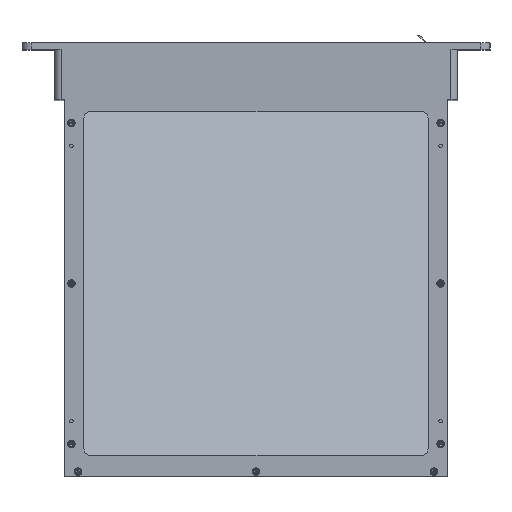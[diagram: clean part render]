
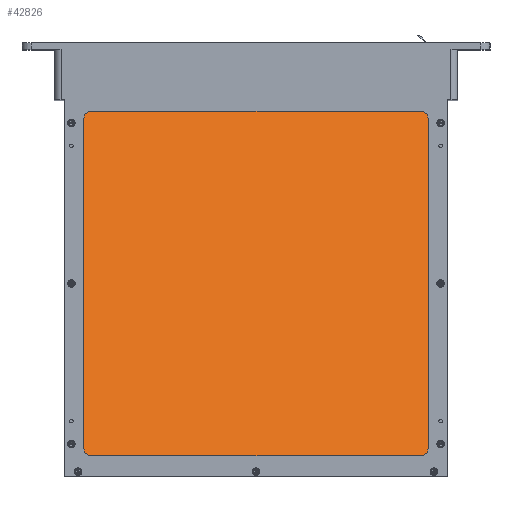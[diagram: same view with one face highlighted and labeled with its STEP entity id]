
A CAD part, top view. The second image highlights one B-rep face of the part: STEP entity #42826.
In plain terms, the highlighted planar face has unit normal (0, 0.707, 0.707).
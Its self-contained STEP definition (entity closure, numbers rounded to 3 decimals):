
#849 = ORIENTED_EDGE ( 'NONE', *, *, #55717, .T. ) ;
#1641 = CARTESIAN_POINT ( 'NONE',  ( -78.5, -179.786, 82.114 ) ) ;
#1803 = ORIENTED_EDGE ( 'NONE', *, *, #53153, .F. ) ;
#2137 = AXIS2_PLACEMENT_3D ( 'NONE', #57007, #28100, #61825 ) ;
#3499 = EDGE_CURVE ( 'NONE', #39111, #40626, #30976, .T. ) ;
#3856 = CARTESIAN_POINT ( 'NONE',  ( 80.5, -23.515, -74.156 ) ) ;
#4206 = DIRECTION ( 'NONE',  ( 0., -0.707, -0.707 ) ) ;
#6580 = CARTESIAN_POINT ( 'NONE',  ( 80.5, -22.101, -75.571 ) ) ;
#6692 = VECTOR ( 'NONE', #18052, 1000. ) ;
#6786 = VECTOR ( 'NONE', #49911, 1000. ) ;
#7657 = ORIENTED_EDGE ( 'NONE', *, *, #30586, .T. ) ;
#8136 = ORIENTED_EDGE ( 'NONE', *, *, #14205, .F. ) ;
#9308 = EDGE_CURVE ( 'NONE', #39111, #35872, #52526, .T. ) ;
#9377 = DIRECTION ( 'NONE',  ( -1., 0., 0. ) ) ;
#10535 = VERTEX_POINT ( 'NONE', #17707 ) ;
#10875 = FACE_OUTER_BOUND ( 'NONE', #19885, .T. ) ;
#11357 = EDGE_CURVE ( 'NONE', #24089, #10535, #19677, .T. ) ;
#11403 = DIRECTION ( 'NONE',  ( 0., 0.707, 0.707 ) ) ;
#14205 = EDGE_CURVE ( 'NONE', #56352, #35872, #54165, .T. ) ;
#16961 = DIRECTION ( 'NONE',  ( 0., 0.707, 0.707 ) ) ;
#17707 = CARTESIAN_POINT ( 'NONE',  ( 78.5, -22.101, -75.571 ) ) ;
#18052 = DIRECTION ( 'NONE',  ( 0., -0.707, 0.707 ) ) ;
#18140 = CARTESIAN_POINT ( 'NONE',  ( 78.5, -179.786, 82.114 ) ) ;
#19677 = LINE ( 'NONE', #6580, #6786 ) ;
#19885 = EDGE_LOOP ( 'NONE', ( #8136, #849, #1803, #39859, #34296, #7657, #34054, #37641 ) ) ;
#20631 = CARTESIAN_POINT ( 'NONE',  ( -78.5, -23.515, -74.156 ) ) ;
#24089 = VERTEX_POINT ( 'NONE', #35870 ) ;
#25009 = AXIS2_PLACEMENT_3D ( 'NONE', #40341, #11403, #45222 ) ;
#25486 = DIRECTION ( 'NONE',  ( 0., 0.707, -0.707 ) ) ;
#28100 = DIRECTION ( 'NONE',  ( 0., 0.707, 0.707 ) ) ;
#30339 = EDGE_CURVE ( 'NONE', #62024, #10535, #36357, .T. ) ;
#30586 = EDGE_CURVE ( 'NONE', #24089, #40626, #40157, .T. ) ;
#30976 = LINE ( 'NONE', #36402, #55181 ) ;
#33468 = CARTESIAN_POINT ( 'NONE',  ( 80.5, -179.786, 82.114 ) ) ;
#33917 = VERTEX_POINT ( 'NONE', #56839 ) ;
#34054 = ORIENTED_EDGE ( 'NONE', *, *, #3499, .F. ) ;
#34296 = ORIENTED_EDGE ( 'NONE', *, *, #11357, .F. ) ;
#35870 = CARTESIAN_POINT ( 'NONE',  ( -78.5, -22.101, -75.571 ) ) ;
#35872 = VERTEX_POINT ( 'NONE', #1641 ) ;
#36357 = CIRCLE ( 'NONE', #2137, 2. ) ;
#36402 = CARTESIAN_POINT ( 'NONE',  ( -80.5, -179.786, 82.114 ) ) ;
#37641 = ORIENTED_EDGE ( 'NONE', *, *, #9308, .T. ) ;
#37970 = DIRECTION ( 'NONE',  ( 0., 0.707, -0.707 ) ) ;
#39111 = VERTEX_POINT ( 'NONE', #62643 ) ;
#39859 = ORIENTED_EDGE ( 'NONE', *, *, #30339, .T. ) ;
#40157 = CIRCLE ( 'NONE', #50785, 2. ) ;
#40341 = CARTESIAN_POINT ( 'NONE',  ( 78.5, -178.372, 80.7 ) ) ;
#40626 = VERTEX_POINT ( 'NONE', #44320 ) ;
#40920 = AXIS2_PLACEMENT_3D ( 'NONE', #45864, #16961, #50763 ) ;
#41281 = VECTOR ( 'NONE', #9377, 1000. ) ;
#41313 = DIRECTION ( 'NONE',  ( 0., 0.707, -0.707 ) ) ;
#42826 = ADVANCED_FACE ( 'NONE', ( #10875 ), #62063, .F. ) ;
#44320 = CARTESIAN_POINT ( 'NONE',  ( -80.5, -23.515, -74.156 ) ) ;
#45222 = DIRECTION ( 'NONE',  ( 0., 0.707, -0.707 ) ) ;
#45864 = CARTESIAN_POINT ( 'NONE',  ( -78.5, -178.372, 80.7 ) ) ;
#46967 = CARTESIAN_POINT ( 'NONE',  ( 80.5, -179.786, 82.114 ) ) ;
#49911 = DIRECTION ( 'NONE',  ( 1., 0., 0. ) ) ;
#50010 = CIRCLE ( 'NONE', #25009, 2. ) ;
#50763 = DIRECTION ( 'NONE',  ( 0., 0.707, -0.707 ) ) ;
#50785 = AXIS2_PLACEMENT_3D ( 'NONE', #20631, #54444, #25486 ) ;
#52231 = CARTESIAN_POINT ( 'NONE',  ( 0., -100.943, 3.272 ) ) ;
#52526 = CIRCLE ( 'NONE', #40920, 2. ) ;
#53153 = EDGE_CURVE ( 'NONE', #62024, #33917, #55089, .T. ) ;
#54165 = LINE ( 'NONE', #33468, #41281 ) ;
#54444 = DIRECTION ( 'NONE',  ( 0., 0.707, 0.707 ) ) ;
#55089 = LINE ( 'NONE', #46967, #6692 ) ;
#55181 = VECTOR ( 'NONE', #41313, 1000. ) ;
#55717 = EDGE_CURVE ( 'NONE', #56352, #33917, #50010, .T. ) ;
#56352 = VERTEX_POINT ( 'NONE', #18140 ) ;
#56839 = CARTESIAN_POINT ( 'NONE',  ( 80.5, -178.372, 80.7 ) ) ;
#57007 = CARTESIAN_POINT ( 'NONE',  ( 78.5, -23.515, -74.156 ) ) ;
#61825 = DIRECTION ( 'NONE',  ( 0., 0.707, -0.707 ) ) ;
#61882 = AXIS2_PLACEMENT_3D ( 'NONE', #52231, #4206, #37970 ) ;
#62024 = VERTEX_POINT ( 'NONE', #3856 ) ;
#62063 = PLANE ( 'NONE',  #61882 ) ;
#62643 = CARTESIAN_POINT ( 'NONE',  ( -80.5, -178.372, 80.7 ) ) ;
